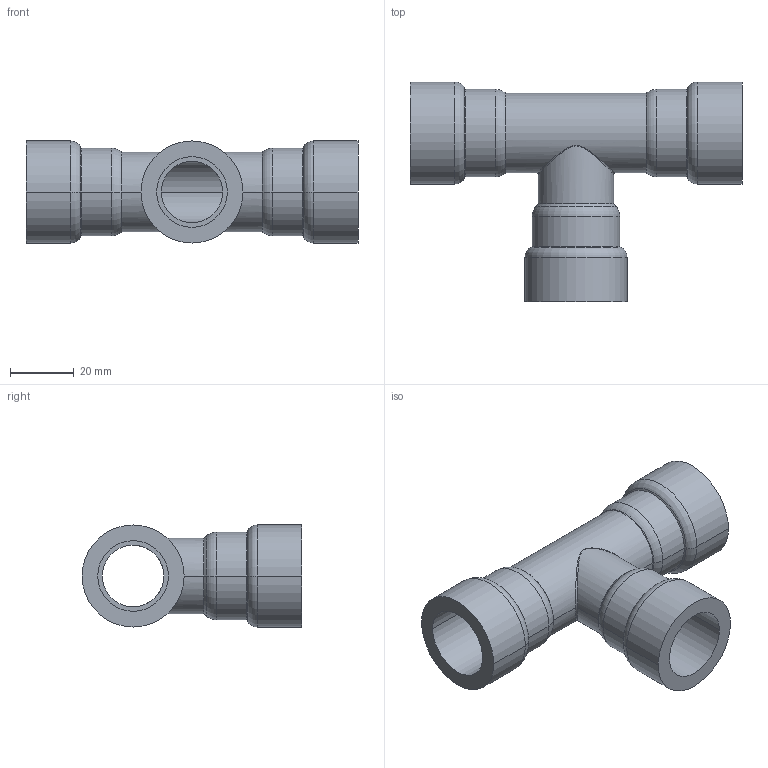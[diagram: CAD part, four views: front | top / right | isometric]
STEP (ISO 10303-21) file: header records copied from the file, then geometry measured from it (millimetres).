
FILE_DESCRIPTION(('Creo Elements/Direct Modeling STEP Export'),'2;1');
FILE_NAME('C9414_1-2.stp','2020-07-14T16:59:22',(''),(''),'PTC Creo Elements/Direct Modeling STEP processor for AP214 (Solid Model)','PTC Creo Elements/Direct Modeling 19.0C 15-Aug-2015 (C) Parametric Technology GmbH','');
FILE_SCHEMA(('AUTOMOTIVE_DESIGN { 1 0 10303 214 1 1 1 1 }'));
Length unit declared in the file: millimetre
Products named in the file (1): 9414_1-2
Bounding box: 104.4 x 69.13 x 32.1 mm (x, y, z)
Volume: 38924.8 mm3; surface area: 23979 mm2
Topology: 1 solids, 1 shells, 60 faces, 133 edges, 77 vertices
Faces by surface type: cylinder 26, cone 12, torus 12, plane 6, bspline 4
Entity records: 5515 total; most frequent: CARTESIAN_POINT 4258, ORIENTED_EDGE 266, DIRECTION 240, EDGE_CURVE 133, AXIS2_PLACEMENT_3D 101, VERTEX_POINT 77, EDGE_LOOP 66, FACE_OUTER_BOUND 60
